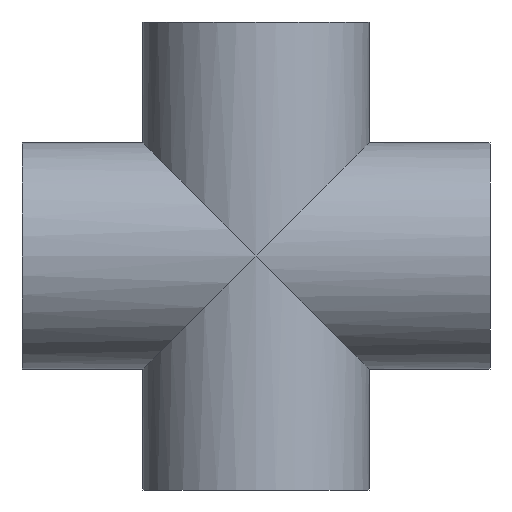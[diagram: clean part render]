
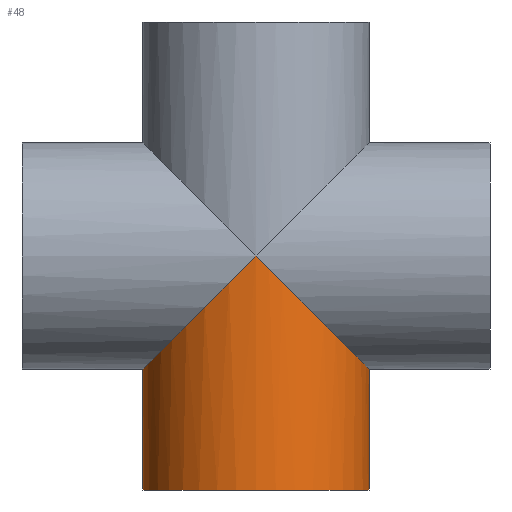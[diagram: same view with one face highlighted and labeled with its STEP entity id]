
A CAD part, front view. The second image highlights one B-rep face of the part: STEP entity #48.
In plain terms, the highlighted cylindrical face has radius 50.8 mm (diameter 101.6 mm), a partial arc.
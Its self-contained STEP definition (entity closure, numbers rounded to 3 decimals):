
#1 = CARTESIAN_POINT ( 'NONE',  ( 50.8, 0., -50.8 ) ) ;
#19 = DIRECTION ( 'NONE',  ( 0., 0., 1. ) ) ;
#21 = EDGE_CURVE ( 'NONE', #518, #202, #626, .T. ) ;
#35 = CARTESIAN_POINT ( 'NONE',  ( 0., 0., -104.775 ) ) ;
#48 = ADVANCED_FACE ( 'NONE', ( #561 ), #112, .T. ) ;
#52 =( BOUNDED_CURVE ( )  B_SPLINE_CURVE ( 3, ( #346, #352, #339, #309 ),
 .UNSPECIFIED., .F., .T. ) 
 B_SPLINE_CURVE_WITH_KNOTS ( ( 4, 4 ),
 ( 1.571, 3.142 ),
 .UNSPECIFIED. ) 
 CURVE ( )  GEOMETRIC_REPRESENTATION_ITEM ( )  RATIONAL_B_SPLINE_CURVE ( ( 1., 0.805, 0.805, 1. ) ) 
 REPRESENTATION_ITEM ( '' )  );
#60 = CARTESIAN_POINT ( 'NONE',  ( 50.8, 0., -104.775 ) ) ;
#85 = DIRECTION ( 'NONE',  ( 1., 0., 0. ) ) ;
#105 = ORIENTED_EDGE ( 'NONE', *, *, #505, .T. ) ;
#112 = CYLINDRICAL_SURFACE ( 'NONE', #272, 50.8 ) ;
#125 = DIRECTION ( 'NONE',  ( 0., 0., 1. ) ) ;
#178 = ORIENTED_EDGE ( 'NONE', *, *, #641, .T. ) ;
#202 = VERTEX_POINT ( 'NONE', #562 ) ;
#207 = VECTOR ( 'NONE', #581, 1000. ) ;
#258 = CARTESIAN_POINT ( 'NONE',  ( 0., -50.8, 0. ) ) ;
#260 = VERTEX_POINT ( 'NONE', #269 ) ;
#269 = CARTESIAN_POINT ( 'NONE',  ( 0., -50.8, 0. ) ) ;
#272 = AXIS2_PLACEMENT_3D ( 'NONE', #314, #19, #310 ) ;
#309 = CARTESIAN_POINT ( 'NONE',  ( -50.8, 0., -50.8 ) ) ;
#310 = DIRECTION ( 'NONE',  ( 1., 0., 0. ) ) ;
#312 = CIRCLE ( 'NONE', #434, 50.8 ) ;
#314 = CARTESIAN_POINT ( 'NONE',  ( 0., 0., -104.775 ) ) ;
#339 = CARTESIAN_POINT ( 'NONE',  ( -50.8, -29.758, -50.8 ) ) ;
#346 = CARTESIAN_POINT ( 'NONE',  ( 0., -50.8, 0. ) ) ;
#351 = ORIENTED_EDGE ( 'NONE', *, *, #445, .T. ) ;
#352 = CARTESIAN_POINT ( 'NONE',  ( -29.758, -50.8, -29.758 ) ) ;
#374 = EDGE_CURVE ( 'NONE', #598, #533, #623, .T. ) ;
#394 = DIRECTION ( 'NONE',  ( 0., 0., 1. ) ) ;
#434 = AXIS2_PLACEMENT_3D ( 'NONE', #35, #394, #85 ) ;
#439 = EDGE_LOOP ( 'NONE', ( #610, #351, #462, #178, #105 ) ) ;
#445 = EDGE_CURVE ( 'NONE', #598, #518, #312, .T. ) ;
#462 = ORIENTED_EDGE ( 'NONE', *, *, #21, .T. ) ;
#467 =( BOUNDED_CURVE ( )  B_SPLINE_CURVE ( 3, ( #1, #551, #552, #258 ),
 .UNSPECIFIED., .F., .T. ) 
 B_SPLINE_CURVE_WITH_KNOTS ( ( 4, 4 ),
 ( 0., 1.571 ),
 .UNSPECIFIED. ) 
 CURVE ( )  GEOMETRIC_REPRESENTATION_ITEM ( )  RATIONAL_B_SPLINE_CURVE ( ( 1., 0.805, 0.805, 1. ) ) 
 REPRESENTATION_ITEM ( '' )  );
#487 = CARTESIAN_POINT ( 'NONE',  ( -50.8, 0., -104.775 ) ) ;
#505 = EDGE_CURVE ( 'NONE', #260, #533, #52, .T. ) ;
#508 = CARTESIAN_POINT ( 'NONE',  ( -50.8, 0., -50.8 ) ) ;
#518 = VERTEX_POINT ( 'NONE', #543 ) ;
#533 = VERTEX_POINT ( 'NONE', #508 ) ;
#543 = CARTESIAN_POINT ( 'NONE',  ( 50.8, 0., -104.775 ) ) ;
#551 = CARTESIAN_POINT ( 'NONE',  ( 50.8, -29.758, -50.8 ) ) ;
#552 = CARTESIAN_POINT ( 'NONE',  ( 29.758, -50.8, -29.758 ) ) ;
#561 = FACE_OUTER_BOUND ( 'NONE', #439, .T. ) ;
#562 = CARTESIAN_POINT ( 'NONE',  ( 50.8, 0., -50.8 ) ) ;
#581 = DIRECTION ( 'NONE',  ( 0., 0., 1. ) ) ;
#594 = CARTESIAN_POINT ( 'NONE',  ( -50.8, 0., -104.775 ) ) ;
#598 = VERTEX_POINT ( 'NONE', #594 ) ;
#610 = ORIENTED_EDGE ( 'NONE', *, *, #374, .F. ) ;
#616 = VECTOR ( 'NONE', #125, 1000. ) ;
#623 = LINE ( 'NONE', #487, #616 ) ;
#626 = LINE ( 'NONE', #60, #207 ) ;
#641 = EDGE_CURVE ( 'NONE', #202, #260, #467, .T. ) ;
